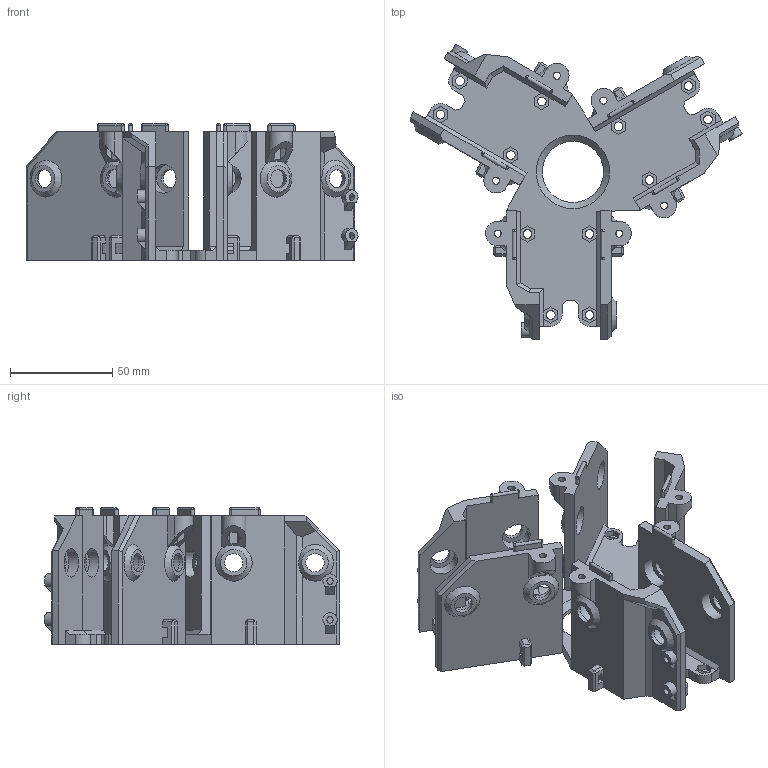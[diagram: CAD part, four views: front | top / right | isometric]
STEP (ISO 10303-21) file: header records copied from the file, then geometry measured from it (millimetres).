
FILE_DESCRIPTION(/* description */ (''),/* implementation_level */ '2;1');
FILE_NAME(/* name */ 'D:\3D печать\Мои проекты\Archy MK 2\STEP\редуктор V2.stp',/* time_stamp */ '2019-03-20T22:06:11+06:00',/* author */ ('Пользователь'),/* organization */ (''),/* preprocessor_version */ 'ST-DEVELOPER v16.5',/* originating_system */ 'Autodesk Inventor 2017',/* authorisation */ '');
FILE_SCHEMA (('AUTOMOTIVE_DESIGN { 1 0 10303 214 3 1 1 }'));
Length unit declared in the file: millimetre
Products named in the file (1): редуктор V2
Bounding box: 162.62 x 144.7 x 67 mm (x, y, z)
Volume: 154066.6 mm3; surface area: 78496.3 mm2
Topology: 1 solids, 1 shells, 538 faces, 1487 edges, 1004 vertices
Faces by surface type: plane 416, cylinder 85, sphere 24, cone 13
Full cylindrical faces by diameter (mm): 3.1 x6, 3.5 x6, 4.3 x12, 9 x12, 14.1 x12, 30 x1
Entity records: 16580 total; most frequent: CARTESIAN_POINT 2958, DIRECTION 2744, ORIENTED_EDGE 2718, EDGE_CURVE 1359, LINE 1112, VECTOR 1112, VERTEX_POINT 906, AXIS2_PLACEMENT_3D 816
